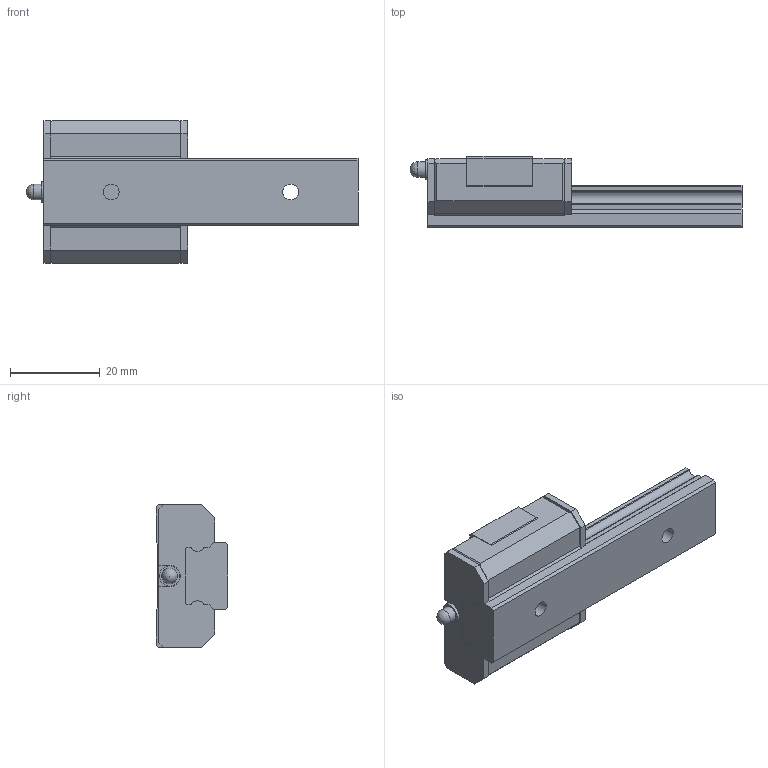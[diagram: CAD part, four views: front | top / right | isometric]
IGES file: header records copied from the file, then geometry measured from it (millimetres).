
Start section: Data from Parasolid IGES Translator 26.0.171, Copyright(c) 2006 Siemens PLM Software. All Rights Reserved.
Global section: file name: SRS15GSSS-70LM_G15_0_PB107_0_0_0_0_1.igs; native system: By Siemens PLM Incorporated; preprocessor: XPlus GENERIC/IGES 26.0.171; author: Noname; organization: Noname; date: 20240517.102446; units: millimetre
Bounding box: 74 x 16 x 32 mm (x, y, z)
Surface area: 7967 mm2 (no closed solid volume)
Topology: 0 solids, 0 shells, 137 faces, 725 edges, 705 vertices
Faces by surface type: extrusion 103, revolution 34
